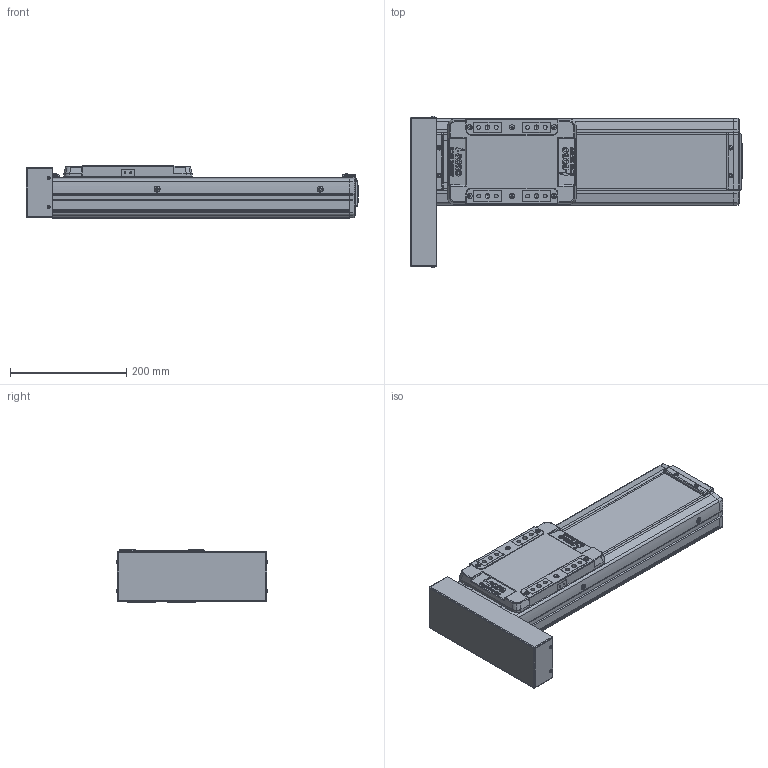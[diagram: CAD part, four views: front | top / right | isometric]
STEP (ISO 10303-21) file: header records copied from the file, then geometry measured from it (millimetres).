
FILE_DESCRIPTION(('STEP AP214'),'1');
FILE_NAME('Z:/Web/3D/SAN150/2013.04 (STP.)/SAN150ㅁㅁ-250PR.stp','2013-05-08T02:27:00',(' '),(' '),'Spatial InterOp 3D',' ',' ');
FILE_SCHEMA(('automotive_design'));
Length unit declared in the file: millimetre
Products named in the file (40): BHCS M3.0 x 6.0; P; SLBL-SAN150; SLCV-SAN150; FHCS M4.0 x 8.0; BHCS M4.0 x 10.0; SFX-SAN150; RRCV-SAN150; FRBL-SAN150; Spacer; RN15; FRCV-SAN150; Screw 20; BASE-SAN150-000L ; SUS COVER; 스크루 : Round - M5.0 x 6.0
Bounding box: 570 x 260.73 x 90 mm (x, y, z)
Volume: 4386635.5 mm3; surface area: 728182.9 mm2
Topology: 40 solids, 40 shells, 2057 faces, 5269 edges, 3362 vertices
Faces by surface type: plane 1023, cylinder 715, cone 226, sphere 60, bspline 21, torus 12
Entity records: 81124 total; most frequent: CARTESIAN_POINT 12962, DIRECTION 11184, ORIENTED_EDGE 10330, EDGE_CURVE 5165, AXIS2_PLACEMENT_3D 4015, VERTEX_POINT 3362, LINE 3154, VECTOR 3154
